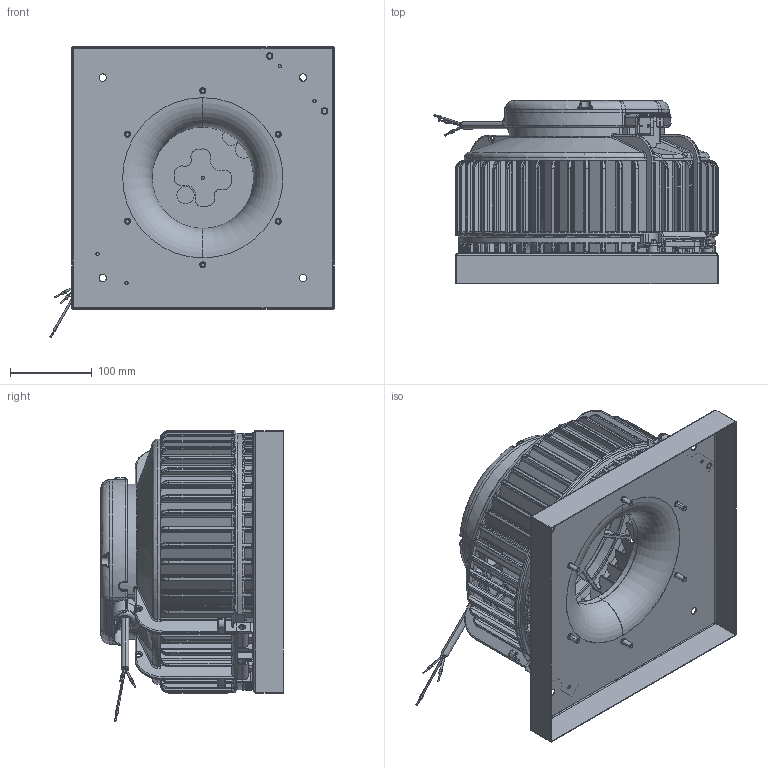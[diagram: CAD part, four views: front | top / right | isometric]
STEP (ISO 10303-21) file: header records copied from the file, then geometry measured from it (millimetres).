
FILE_DESCRIPTION (( 'STEP AP203' ), '1' );
FILE_NAME ('134990-01_DHA190E2P50.STEP', '2017-04-20T12:17:43', ( '' ), ( '' ), 'SwSTEP 2.0', 'SolidWorks 2012', '' );
FILE_SCHEMA (( 'CONFIG_CONTROL_DESIGN' ));
Products named in the file (1): 134990-01_DHA190E2P50
Bounding box: 347.52 x 223.4 x 355.79 mm (x, y, z)
Surface area: 847410.6 mm2 (no closed solid volume)
Topology: 0 solids, 43 shells, 2401 faces, 8279 edges, 5645 vertices
Faces by surface type: cylinder 802, plane 581, torus 505, bspline 411, cone 80, sphere 22
Entity records: 115271 total; most frequent: CARTESIAN_POINT 49895, ORIENTED_EDGE 13561, DIRECTION 12557, EDGE_CURVE 8270, VERTEX_POINT 5644, AXIS2_PLACEMENT_3D 4829, VECTOR 2899, LINE 2899
